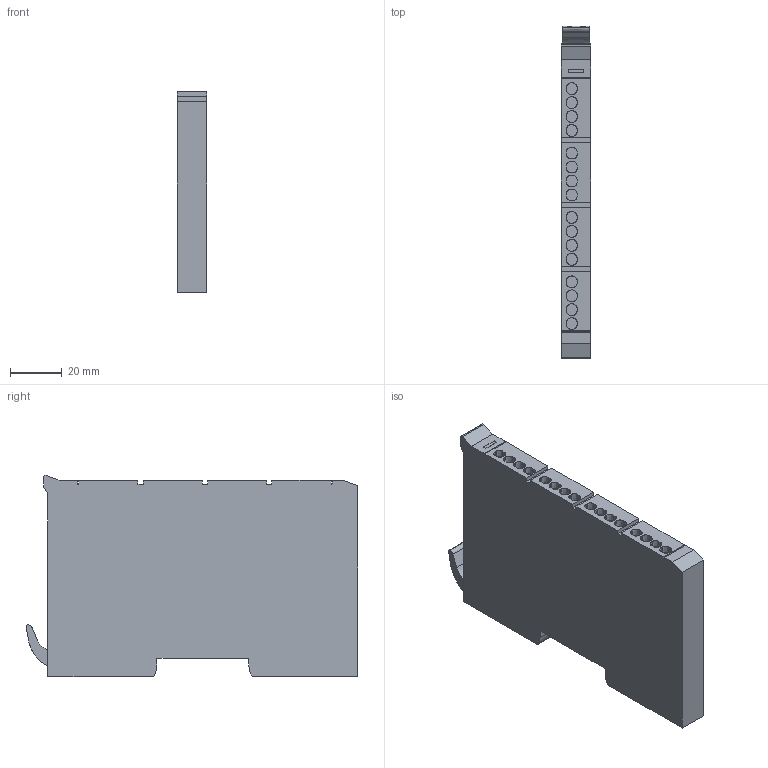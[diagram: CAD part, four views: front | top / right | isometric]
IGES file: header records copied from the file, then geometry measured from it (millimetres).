
Start section:  PTC IGES file: nz2fts4-4de_a.igs
Global section: file name: nz2fts4-4de_a.igs; native system: Creo Parametric by PTC Inc.; preprocessor: 2017480; author: XE51514; organization: Unknown; date: 20190327.170050; units: millimetre
Bounding box: 11.5 x 127.88 x 77.45 mm (x, y, z)
Volume: 100720.7 mm3; surface area: 23431.9 mm2
Topology: 1 solids, 1 shells, 198 faces, 538 edges, 360 vertices
Faces by surface type: bspline 198
